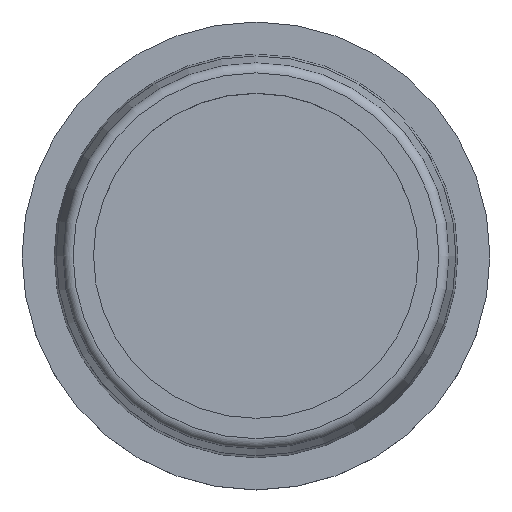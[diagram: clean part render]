
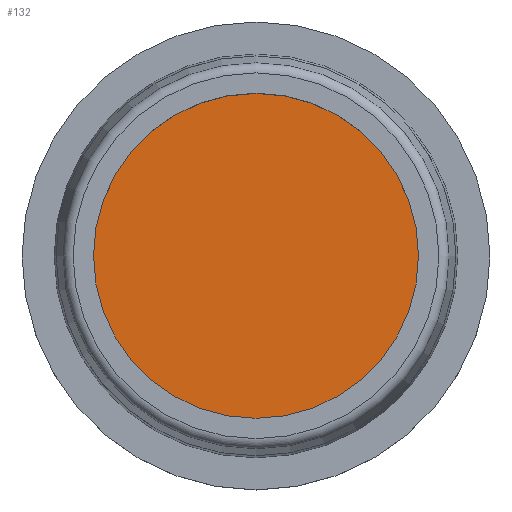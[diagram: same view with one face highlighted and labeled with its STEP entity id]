
A CAD part, top view. The second image highlights one B-rep face of the part: STEP entity #132.
In plain terms, the highlighted planar face has unit normal (0, 0, 1).
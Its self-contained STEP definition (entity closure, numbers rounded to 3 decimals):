
#32=FACE_OUTER_BOUND('',#43,.T.);
#43=EDGE_LOOP('',(#95));
#57=CIRCLE('',#158,15.7);
#69=VERTEX_POINT('',#234);
#79=EDGE_CURVE('',#69,#69,#57,.T.);
#95=ORIENTED_EDGE('',*,*,#79,.F.);
#127=PLANE('',#157);
#132=ADVANCED_FACE('',(#32),#127,.T.);
#157=AXIS2_PLACEMENT_3D('',#233,#182,#183);
#158=AXIS2_PLACEMENT_3D('',#235,#184,#185);
#182=DIRECTION('center_axis',(0.,0.,1.));
#183=DIRECTION('ref_axis',(1.,0.,0.));
#184=DIRECTION('center_axis',(0.,0.,-1.));
#185=DIRECTION('ref_axis',(-1.,0.,0.));
#233=CARTESIAN_POINT('Origin',(0.,0.,0.));
#234=CARTESIAN_POINT('',(15.7,0.,0.));
#235=CARTESIAN_POINT('Origin',(0.,0.,0.));
